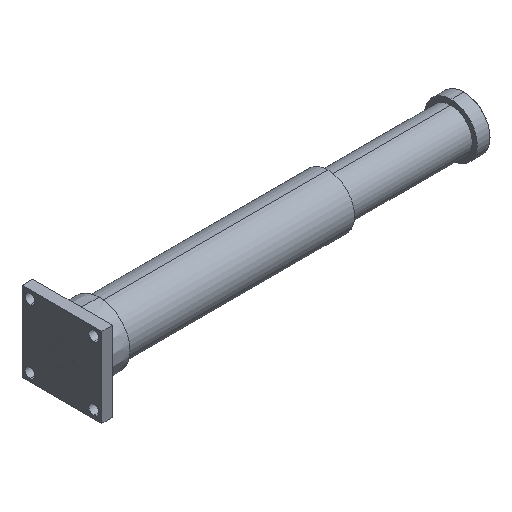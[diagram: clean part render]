
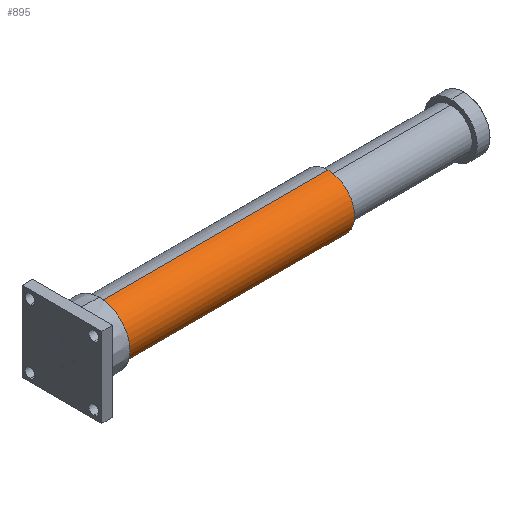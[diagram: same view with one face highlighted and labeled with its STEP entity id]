
A CAD part, isometric view. The second image highlights one B-rep face of the part: STEP entity #895.
In plain terms, the highlighted cylindrical face has radius 50 mm (diameter 100 mm), a partial arc.
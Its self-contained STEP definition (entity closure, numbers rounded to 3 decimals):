
#23 = EDGE_CURVE ( 'NONE', #176, #1112, #328, .T. ) ;
#40 = ORIENTED_EDGE ( 'NONE', *, *, #650, .T. ) ;
#76 = VECTOR ( 'NONE', #311, 1000. ) ;
#85 = DIRECTION ( 'NONE',  ( 0., 0., 1. ) ) ;
#112 = CARTESIAN_POINT ( 'NONE',  ( 50., 0., 50. ) ) ;
#150 = VECTOR ( 'NONE', #286, 1000. ) ;
#176 = VERTEX_POINT ( 'NONE', #547 ) ;
#179 = CIRCLE ( 'NONE', #1095, 50. ) ;
#218 = ORIENTED_EDGE ( 'NONE', *, *, #348, .T. ) ;
#286 = DIRECTION ( 'NONE',  ( -1., 0., 0. ) ) ;
#297 = CARTESIAN_POINT ( 'NONE',  ( 480., 0., -50. ) ) ;
#303 = CARTESIAN_POINT ( 'NONE',  ( 480., 0., 50. ) ) ;
#311 = DIRECTION ( 'NONE',  ( -1., 0., 0. ) ) ;
#328 = LINE ( 'NONE', #303, #76 ) ;
#348 = EDGE_CURVE ( 'NONE', #630, #176, #482, .T. ) ;
#413 = DIRECTION ( 'NONE',  ( 0., 0., 1. ) ) ;
#416 = DIRECTION ( 'NONE',  ( 1., 0., 0. ) ) ;
#480 = LINE ( 'NONE', #297, #150 ) ;
#482 = CIRCLE ( 'NONE', #954, 50. ) ;
#524 = CARTESIAN_POINT ( 'NONE',  ( 50., 0., -50. ) ) ;
#541 = CARTESIAN_POINT ( 'NONE',  ( 480., 0., -50. ) ) ;
#547 = CARTESIAN_POINT ( 'NONE',  ( 480., 0., 50. ) ) ;
#575 = CYLINDRICAL_SURFACE ( 'NONE', #744, 50. ) ;
#607 = CARTESIAN_POINT ( 'NONE',  ( 480., 0., 0. ) ) ;
#622 = CARTESIAN_POINT ( 'NONE',  ( 480., 0., 0. ) ) ;
#630 = VERTEX_POINT ( 'NONE', #541 ) ;
#650 = EDGE_CURVE ( 'NONE', #1112, #745, #179, .T. ) ;
#671 = EDGE_CURVE ( 'NONE', #630, #745, #480, .T. ) ;
#736 = ORIENTED_EDGE ( 'NONE', *, *, #23, .T. ) ;
#740 = ORIENTED_EDGE ( 'NONE', *, *, #671, .F. ) ;
#744 = AXIS2_PLACEMENT_3D ( 'NONE', #607, #1022, #85 ) ;
#745 = VERTEX_POINT ( 'NONE', #524 ) ;
#774 = DIRECTION ( 'NONE',  ( 0., 0., 1. ) ) ;
#827 = CARTESIAN_POINT ( 'NONE',  ( 50., 0., 0. ) ) ;
#895 = ADVANCED_FACE ( 'NONE', ( #1012 ), #575, .T. ) ;
#954 = AXIS2_PLACEMENT_3D ( 'NONE', #622, #1179, #774 ) ;
#1012 = FACE_OUTER_BOUND ( 'NONE', #1100, .T. ) ;
#1022 = DIRECTION ( 'NONE',  ( -1., 0., 0. ) ) ;
#1095 = AXIS2_PLACEMENT_3D ( 'NONE', #827, #416, #413 ) ;
#1100 = EDGE_LOOP ( 'NONE', ( #740, #218, #736, #40 ) ) ;
#1112 = VERTEX_POINT ( 'NONE', #112 ) ;
#1179 = DIRECTION ( 'NONE',  ( -1., 0., 0. ) ) ;
